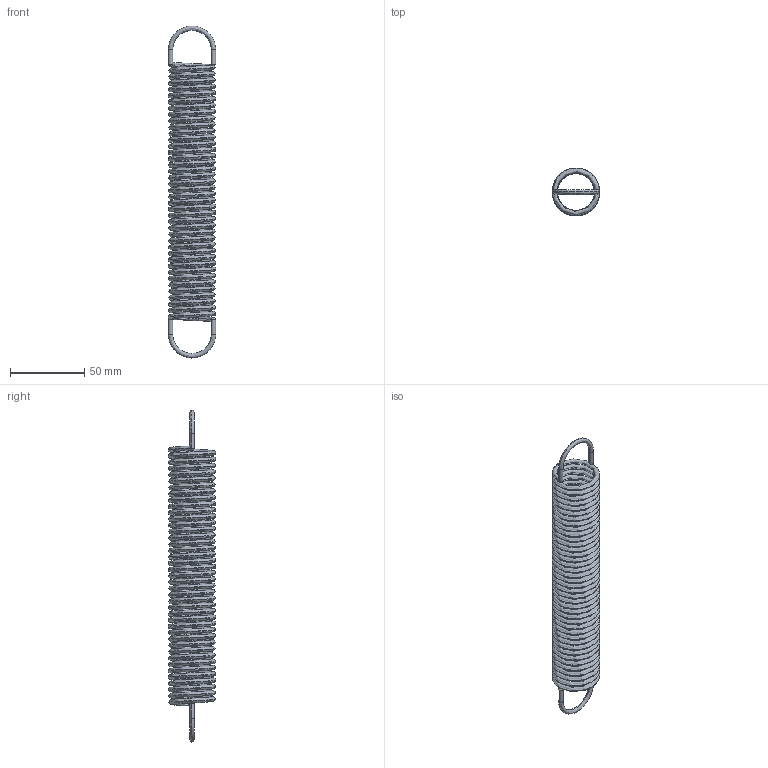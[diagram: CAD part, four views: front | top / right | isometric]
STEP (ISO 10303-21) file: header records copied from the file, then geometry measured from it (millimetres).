
FILE_DESCRIPTION (( 'STEP AP214' ), '1' );
FILE_NAME ('N605404_0-stp-Zugfeder.STEP', '2018-07-04T07:30:20', ( '' ), ( '' ), 'SwSTEP 2.0', 'SolidWorks 2017', '' );
FILE_SCHEMA (( 'AUTOMOTIVE_DESIGN' ));
Length unit declared in the file: millimetre
Products named in the file (1): N605404_0-stp-Zugfeder
Bounding box: 32 x 32 x 224 mm (x, y, z)
Volume: 26977.6 mm3; surface area: 36021.3 mm2
Topology: 1 solids, 1 shells, 20 faces, 66 edges, 35 vertices
Faces by surface type: bspline 10, cylinder 8, plane 2
Entity records: 56444 total; most frequent: CARTESIAN_POINT 55954, ORIENTED_EDGE 106, DIRECTION 86, EDGE_CURVE 53, AXIS2_PLACEMENT_3D 39, VERTEX_POINT 35, CIRCLE 28, FACE_OUTER_BOUND 20
